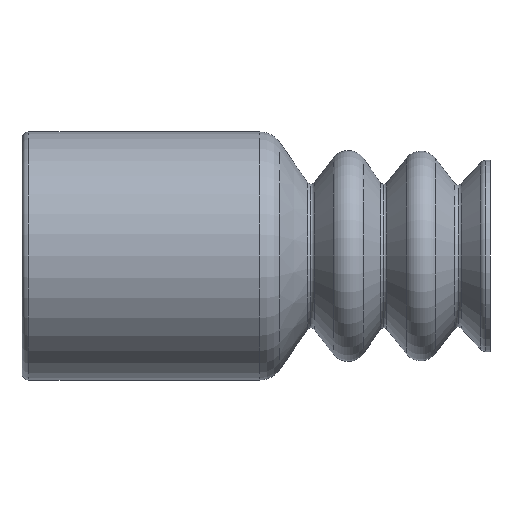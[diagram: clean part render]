
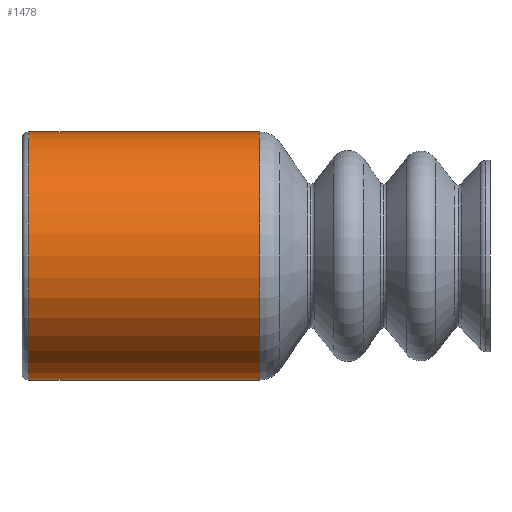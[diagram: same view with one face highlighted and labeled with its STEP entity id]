
A CAD part, left-side view. The second image highlights one B-rep face of the part: STEP entity #1478.
In plain terms, the highlighted cylindrical face has radius 3.498 mm (diameter 6.996 mm), a partial arc.
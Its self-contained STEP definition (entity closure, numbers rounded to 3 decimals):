
#6 = DIRECTION ( 'NONE',  ( 0., 0., 1. ) ) ;
#9 = AXIS2_PLACEMENT_3D ( 'NONE', #1256, #904, #1693 ) ;
#106 = EDGE_CURVE ( 'NONE', #985, #1234, #1082, .T. ) ;
#114 = DIRECTION ( 'NONE',  ( 0., 1., 0. ) ) ;
#126 = ORIENTED_EDGE ( 'NONE', *, *, #145, .F. ) ;
#137 = DIRECTION ( 'NONE',  ( 0., 1., 0. ) ) ;
#145 = EDGE_CURVE ( 'NONE', #1862, #1234, #886, .T. ) ;
#163 = CARTESIAN_POINT ( 'NONE',  ( 0., -0.329, 0. ) ) ;
#338 = CARTESIAN_POINT ( 'NONE',  ( 0., -0.134, 3.498 ) ) ;
#340 = CIRCLE ( 'NONE', #9, 3.498 ) ;
#421 = CARTESIAN_POINT ( 'NONE',  ( 0., -0.329, -3.498 ) ) ;
#438 = AXIS2_PLACEMENT_3D ( 'NONE', #1710, #1987, #6 ) ;
#461 = DIRECTION ( 'NONE',  ( 0., 1., 0. ) ) ;
#621 = CYLINDRICAL_SURFACE ( 'NONE', #438, 3.498 ) ;
#631 = FACE_OUTER_BOUND ( 'NONE', #1049, .T. ) ;
#695 = VECTOR ( 'NONE', #137, 1000. ) ;
#707 = VERTEX_POINT ( 'NONE', #1216 ) ;
#777 = CARTESIAN_POINT ( 'NONE',  ( 0., -0.134, -3.498 ) ) ;
#886 = CIRCLE ( 'NONE', #1150, 3.498 ) ;
#904 = DIRECTION ( 'NONE',  ( 0., 1., 0. ) ) ;
#944 = ORIENTED_EDGE ( 'NONE', *, *, #1475, .F. ) ;
#985 = VERTEX_POINT ( 'NONE', #1419 ) ;
#1049 = EDGE_LOOP ( 'NONE', ( #944, #1440, #1152, #126 ) ) ;
#1056 = EDGE_CURVE ( 'NONE', #707, #985, #340, .T. ) ;
#1082 = LINE ( 'NONE', #338, #1979 ) ;
#1150 = AXIS2_PLACEMENT_3D ( 'NONE', #163, #114, #1692 ) ;
#1152 = ORIENTED_EDGE ( 'NONE', *, *, #106, .T. ) ;
#1216 = CARTESIAN_POINT ( 'NONE',  ( 0., -6.829, -3.498 ) ) ;
#1234 = VERTEX_POINT ( 'NONE', #1900 ) ;
#1256 = CARTESIAN_POINT ( 'NONE',  ( 0., -6.829, 0. ) ) ;
#1382 = LINE ( 'NONE', #777, #695 ) ;
#1419 = CARTESIAN_POINT ( 'NONE',  ( 0., -6.829, 3.498 ) ) ;
#1440 = ORIENTED_EDGE ( 'NONE', *, *, #1056, .T. ) ;
#1475 = EDGE_CURVE ( 'NONE', #707, #1862, #1382, .T. ) ;
#1478 = ADVANCED_FACE ( 'NONE', ( #631 ), #621, .T. ) ;
#1692 = DIRECTION ( 'NONE',  ( 0., 0., 1. ) ) ;
#1693 = DIRECTION ( 'NONE',  ( 0., 0., 1. ) ) ;
#1710 = CARTESIAN_POINT ( 'NONE',  ( 0., -0.134, 0. ) ) ;
#1862 = VERTEX_POINT ( 'NONE', #421 ) ;
#1900 = CARTESIAN_POINT ( 'NONE',  ( 0., -0.329, 3.498 ) ) ;
#1979 = VECTOR ( 'NONE', #461, 1000. ) ;
#1987 = DIRECTION ( 'NONE',  ( 0., 1., 0. ) ) ;
